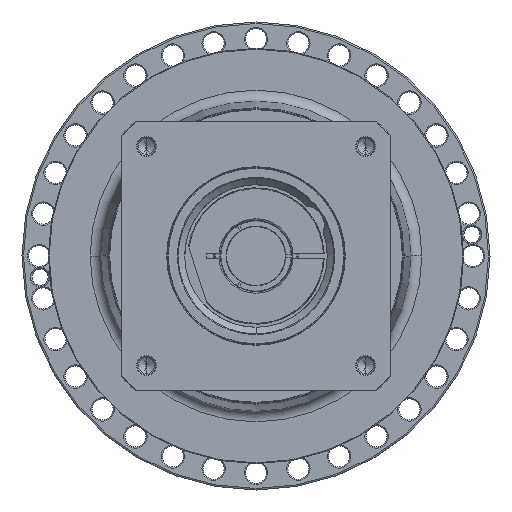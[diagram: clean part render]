
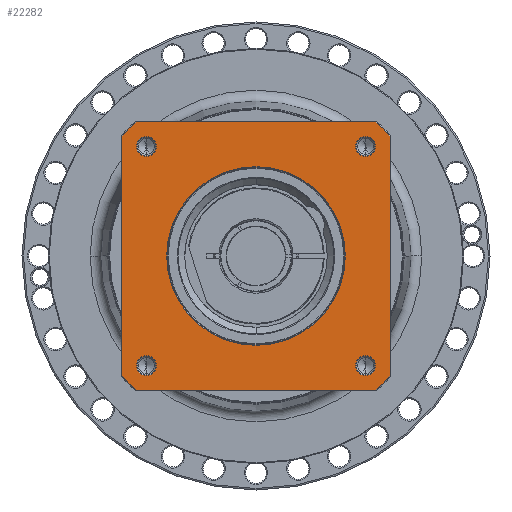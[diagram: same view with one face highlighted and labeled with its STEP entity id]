
A CAD part, left-side view. The second image highlights one B-rep face of the part: STEP entity #22282.
In plain terms, the highlighted planar face has unit normal (-1, 0, 0) as drawn and (0, 0, 1) by its records, which use the part's own axes.
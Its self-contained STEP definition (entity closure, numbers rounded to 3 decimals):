
#21033=CARTESIAN_POINT('',(0.,0.,
76.));
#21034=DIRECTION('',(0.,0.,-1.));
#21035=DIRECTION('',(0.,-1.,0.));
#21036=AXIS2_PLACEMENT_3D('',#21033,#21034,#21035);
#21038=CARTESIAN_POINT('',(0.,0.,
76.));
#21039=DIRECTION('',(0.,0.,-1.));
#21040=DIRECTION('',(0.,1.,0.));
#21041=AXIS2_PLACEMENT_3D('',#21038,#21039,#21040);
#21043=CARTESIAN_POINT('',(0.,0.,76.));
#21044=DIRECTION('',(0.,0.,1.));
#21045=DIRECTION('',(-0.746,-0.666,0.));
#21046=AXIS2_PLACEMENT_3D('',#21043,#21044,#21045);
#21058=DIRECTION('',(1.,0.,0.));
#21059=VECTOR('',#21058,154.58);
#21060=CARTESIAN_POINT('',(-77.29,-86.5,76.));
#21061=LINE('',#21060,#21059);
#21071=CARTESIAN_POINT('',(0.,0.,76.));
#21072=DIRECTION('',(0.,0.,1.));
#21073=DIRECTION('',(0.666,-0.746,0.));
#21074=AXIS2_PLACEMENT_3D('',#21071,#21072,#21073);
#21086=DIRECTION('',(0.,1.,0.));
#21087=VECTOR('',#21086,154.58);
#21088=CARTESIAN_POINT('',(86.5,-77.29,76.));
#21089=LINE('',#21088,#21087);
#21099=CARTESIAN_POINT('',(0.,0.,76.));
#21100=DIRECTION('',(0.,0.,1.));
#21101=DIRECTION('',(0.746,0.666,0.));
#21102=AXIS2_PLACEMENT_3D('',#21099,#21100,#21101);
#21114=DIRECTION('',(-1.,0.,0.));
#21115=VECTOR('',#21114,154.58);
#21116=CARTESIAN_POINT('',(77.29,86.5,76.));
#21117=LINE('',#21116,#21115);
#21122=CARTESIAN_POINT('',(0.,0.,76.));
#21123=DIRECTION('',(0.,0.,1.));
#21124=DIRECTION('',(-0.666,0.746,0.));
#21125=AXIS2_PLACEMENT_3D('',#21122,#21123,#21124);
#21142=DIRECTION('',(0.,-1.,0.));
#21143=VECTOR('',#21142,154.58);
#21144=CARTESIAN_POINT('',(-86.5,77.29,76.));
#21145=LINE('',#21144,#21143);
#21228=CARTESIAN_POINT('',(-70.711,70.711,76.));
#21229=DIRECTION('',(0.,0.,1.));
#21230=DIRECTION('',(-1.,0.,0.));
#21231=AXIS2_PLACEMENT_3D('',#21228,#21229,#21230);
#21246=CARTESIAN_POINT('',(-70.711,70.711,76.));
#21247=DIRECTION('',(0.,0.,1.));
#21248=DIRECTION('',(1.,0.,0.));
#21249=AXIS2_PLACEMENT_3D('',#21246,#21247,#21248);
#21282=CARTESIAN_POINT('',(70.711,70.711,76.));
#21283=DIRECTION('',(0.,0.,1.));
#21284=DIRECTION('',(-1.,0.,0.));
#21285=AXIS2_PLACEMENT_3D('',#21282,#21283,#21284);
#21300=CARTESIAN_POINT('',(70.711,70.711,76.));
#21301=DIRECTION('',(0.,0.,1.));
#21302=DIRECTION('',(1.,0.,0.));
#21303=AXIS2_PLACEMENT_3D('',#21300,#21301,#21302);
#21336=CARTESIAN_POINT('',(70.711,-70.711,76.));
#21337=DIRECTION('',(0.,0.,1.));
#21338=DIRECTION('',(-1.,0.,0.));
#21339=AXIS2_PLACEMENT_3D('',#21336,#21337,#21338);
#21354=CARTESIAN_POINT('',(70.711,-70.711,76.));
#21355=DIRECTION('',(0.,0.,1.));
#21356=DIRECTION('',(1.,0.,0.));
#21357=AXIS2_PLACEMENT_3D('',#21354,#21355,#21356);
#21390=CARTESIAN_POINT('',(-70.711,-70.711,76.));
#21391=DIRECTION('',(0.,0.,1.));
#21392=DIRECTION('',(-1.,0.,0.));
#21393=AXIS2_PLACEMENT_3D('',#21390,#21391,#21392);
#21408=CARTESIAN_POINT('',(-70.711,-70.711,76.));
#21409=DIRECTION('',(0.,0.,1.));
#21410=DIRECTION('',(1.,0.,0.));
#21411=AXIS2_PLACEMENT_3D('',#21408,#21409,#21410);
#21540=CARTESIAN_POINT('',(86.5,-77.29,76.));
#21541=CARTESIAN_POINT('',(86.5,77.29,76.));
#21542=VERTEX_POINT('',#21540);
#21543=VERTEX_POINT('',#21541);
#21548=CARTESIAN_POINT('',(77.29,-86.5,76.));
#21549=VERTEX_POINT('',#21548);
#21552=CARTESIAN_POINT('',(-77.29,-86.5,76.));
#21553=VERTEX_POINT('',#21552);
#21556=CARTESIAN_POINT('',(-86.5,-77.29,76.));
#21557=VERTEX_POINT('',#21556);
#21560=CARTESIAN_POINT('',(-86.5,77.29,76.));
#21561=VERTEX_POINT('',#21560);
#21564=CARTESIAN_POINT('',(-77.29,86.5,76.));
#21565=VERTEX_POINT('',#21564);
#21568=CARTESIAN_POINT('',(77.29,86.5,76.));
#21569=VERTEX_POINT('',#21568);
#21578=CARTESIAN_POINT('',(-77.111,70.711,76.));
#21579=CARTESIAN_POINT('',(-64.311,70.711,76.));
#21580=VERTEX_POINT('',#21578);
#21581=VERTEX_POINT('',#21579);
#21604=CARTESIAN_POINT('',(77.111,70.711,76.));
#21605=CARTESIAN_POINT('',(64.311,70.711,76.));
#21606=VERTEX_POINT('',#21604);
#21607=VERTEX_POINT('',#21605);
#21612=CARTESIAN_POINT('',(77.111,-70.711,76.));
#21613=CARTESIAN_POINT('',(64.311,-70.711,76.));
#21614=VERTEX_POINT('',#21612);
#21615=VERTEX_POINT('',#21613);
#21620=CARTESIAN_POINT('',(-64.311,-70.711,76.));
#21621=CARTESIAN_POINT('',(-77.111,-70.711,76.));
#21622=VERTEX_POINT('',#21620);
#21623=VERTEX_POINT('',#21621);
#21628=CARTESIAN_POINT('',(0.,-57.65,76.));
#21629=CARTESIAN_POINT('',(0.,57.65,
76.));
#21630=VERTEX_POINT('',#21628);
#21631=VERTEX_POINT('',#21629);
#22230=CARTESIAN_POINT('',(0.,0.,76.));
#22231=DIRECTION('',(0.,0.,1.));
#22232=DIRECTION('',(1.,0.,0.));
#22233=AXIS2_PLACEMENT_3D('',#22230,#22231,#22232);
#22234=PLANE('',#22233);
#22236=ORIENTED_EDGE('',*,*,#22235,.F.);
#22238=ORIENTED_EDGE('',*,*,#22237,.F.);
#22240=ORIENTED_EDGE('',*,*,#22239,.F.);
#22242=ORIENTED_EDGE('',*,*,#22241,.F.);
#22244=ORIENTED_EDGE('',*,*,#22243,.F.);
#22246=ORIENTED_EDGE('',*,*,#22245,.F.);
#22248=ORIENTED_EDGE('',*,*,#22247,.F.);
#22250=ORIENTED_EDGE('',*,*,#22249,.F.);
#22251=EDGE_LOOP('',(#22236,#22238,#22240,#22242,#22244,#22246,#22248,#22250));
#22252=FACE_OUTER_BOUND('',#22251,.F.);
#22253=ORIENTED_EDGE('',*,*,#22220,.F.);
#22255=ORIENTED_EDGE('',*,*,#22254,.F.);
#22256=EDGE_LOOP('',(#22253,#22255));
#22257=FACE_BOUND('',#22256,.F.);
#22259=ORIENTED_EDGE('',*,*,#22258,.T.);
#22261=ORIENTED_EDGE('',*,*,#22260,.T.);
#22262=EDGE_LOOP('',(#22259,#22261));
#22263=FACE_BOUND('',#22262,.F.);
#22265=ORIENTED_EDGE('',*,*,#22264,.T.);
#22267=ORIENTED_EDGE('',*,*,#22266,.T.);
#22268=EDGE_LOOP('',(#22265,#22267));
#22269=FACE_BOUND('',#22268,.F.);
#22271=ORIENTED_EDGE('',*,*,#22270,.T.);
#22273=ORIENTED_EDGE('',*,*,#22272,.T.);
#22274=EDGE_LOOP('',(#22271,#22273));
#22275=FACE_BOUND('',#22274,.F.);
#22277=ORIENTED_EDGE('',*,*,#22276,.T.);
#22279=ORIENTED_EDGE('',*,*,#22278,.T.);
#22280=EDGE_LOOP('',(#22277,#22279));
#22281=FACE_BOUND('',#22280,.F.);
#22282=ADVANCED_FACE('',(#22252,#22257,#22263,#22269,#22275,#22281),#22234,.T.);
#21037=CIRCLE('',#21036,57.65);
#21042=CIRCLE('',#21041,57.65);
#21047=CIRCLE('',#21046,116.);
#21075=CIRCLE('',#21074,116.);
#21103=CIRCLE('',#21102,116.);
#21126=CIRCLE('',#21125,116.);
#21232=CIRCLE('',#21231,6.4);
#21250=CIRCLE('',#21249,6.4);
#21286=CIRCLE('',#21285,6.4);
#21304=CIRCLE('',#21303,6.4);
#21340=CIRCLE('',#21339,6.4);
#21358=CIRCLE('',#21357,6.4);
#21394=CIRCLE('',#21393,6.4);
#21412=CIRCLE('',#21411,6.4);
#22220=EDGE_CURVE('',#21630,#21631,#21037,.T.);
#22235=EDGE_CURVE('',#21557,#21553,#21047,.T.);
#22237=EDGE_CURVE('',#21561,#21557,#21145,.T.);
#22239=EDGE_CURVE('',#21565,#21561,#21126,.T.);
#22241=EDGE_CURVE('',#21569,#21565,#21117,.T.);
#22243=EDGE_CURVE('',#21543,#21569,#21103,.T.);
#22245=EDGE_CURVE('',#21542,#21543,#21089,.T.);
#22247=EDGE_CURVE('',#21549,#21542,#21075,.T.);
#22249=EDGE_CURVE('',#21553,#21549,#21061,.T.);
#22254=EDGE_CURVE('',#21631,#21630,#21042,.T.);
#22258=EDGE_CURVE('',#21580,#21581,#21232,.T.);
#22260=EDGE_CURVE('',#21581,#21580,#21250,.T.);
#22264=EDGE_CURVE('',#21607,#21606,#21286,.T.);
#22266=EDGE_CURVE('',#21606,#21607,#21304,.T.);
#22270=EDGE_CURVE('',#21615,#21614,#21340,.T.);
#22272=EDGE_CURVE('',#21614,#21615,#21358,.T.);
#22276=EDGE_CURVE('',#21623,#21622,#21394,.T.);
#22278=EDGE_CURVE('',#21622,#21623,#21412,.T.);
